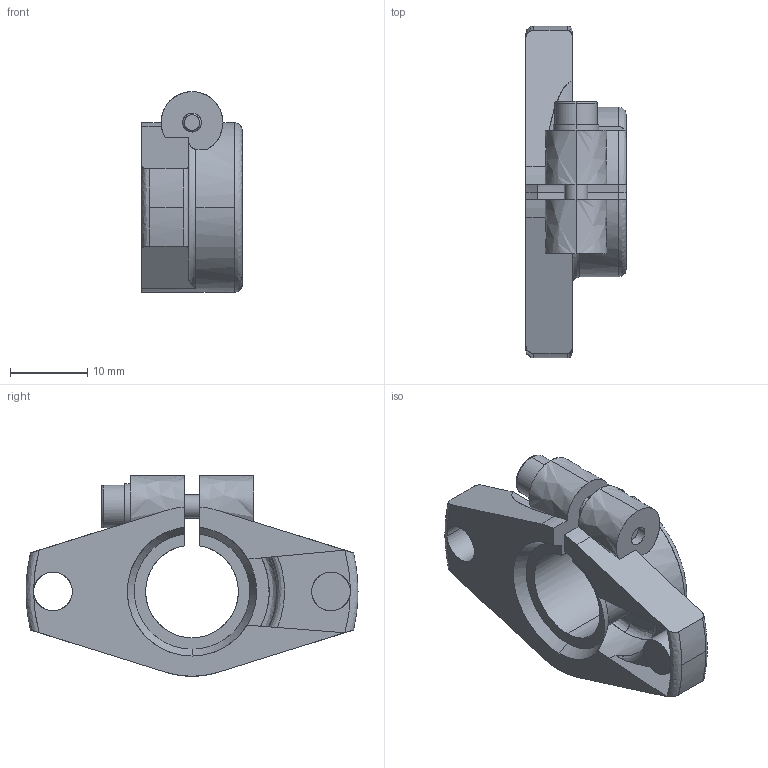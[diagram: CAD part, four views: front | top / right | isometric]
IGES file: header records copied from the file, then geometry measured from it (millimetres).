
Global section: file name: No Iges File Name specified; native system: AutoDesk Inventor R10; preprocessor: AutoDesk Inventor Iges Exporter R10; author: No Author specified; organization: No Organization specified; date: 20101214.153348; units: millimetre
Bounding box: 13 x 43 x 26 mm (x, y, z)
Surface area: 3368.6 mm2 (no closed solid volume)
Topology: 0 solids, 0 shells, 74 faces, 668 edges, 662 vertices
Faces by surface type: bspline 74
